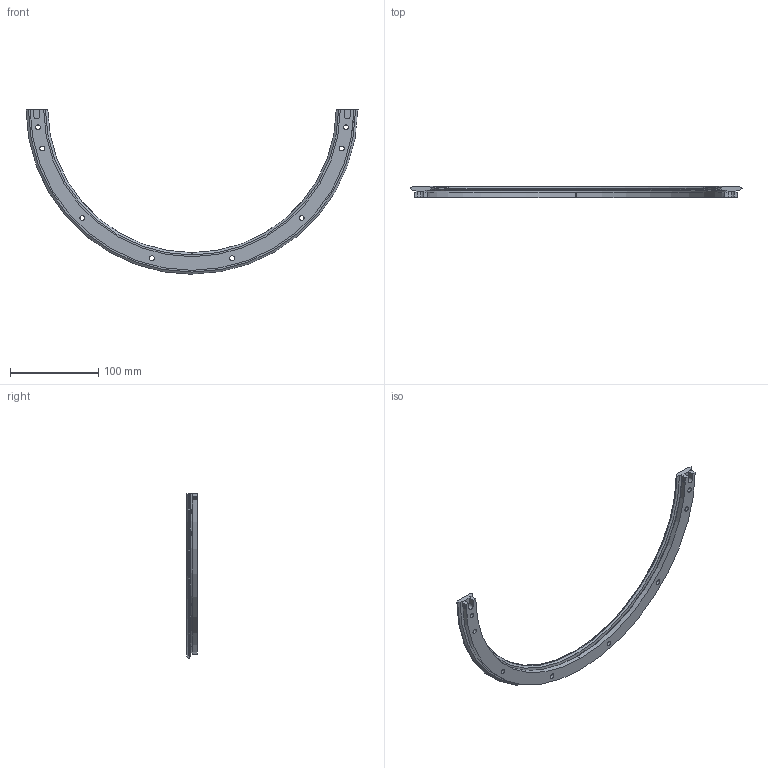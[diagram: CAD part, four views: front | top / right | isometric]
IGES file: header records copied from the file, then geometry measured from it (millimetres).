
Start section: 3D InterOp IGES (v. 2019 1.0.2), Spatial Corp. Copyright (c) 1999-2017.
Global section: file name: TR25 351 R180.igs; native system: Spatial Corp.; preprocessor: 3D InterOp GENERIC/IGES 3.0; author: Noname; organization: Noname; date: 20220628.092401; units: millimetre
Bounding box: 375.58 x 12.25 x 186.31 mm (x, y, z)
Surface area: 44462.1 mm2 (no closed solid volume)
Topology: 0 solids, 0 shells, 117 faces, 590 edges, 590 vertices
Faces by surface type: revolution 63, extrusion 54
